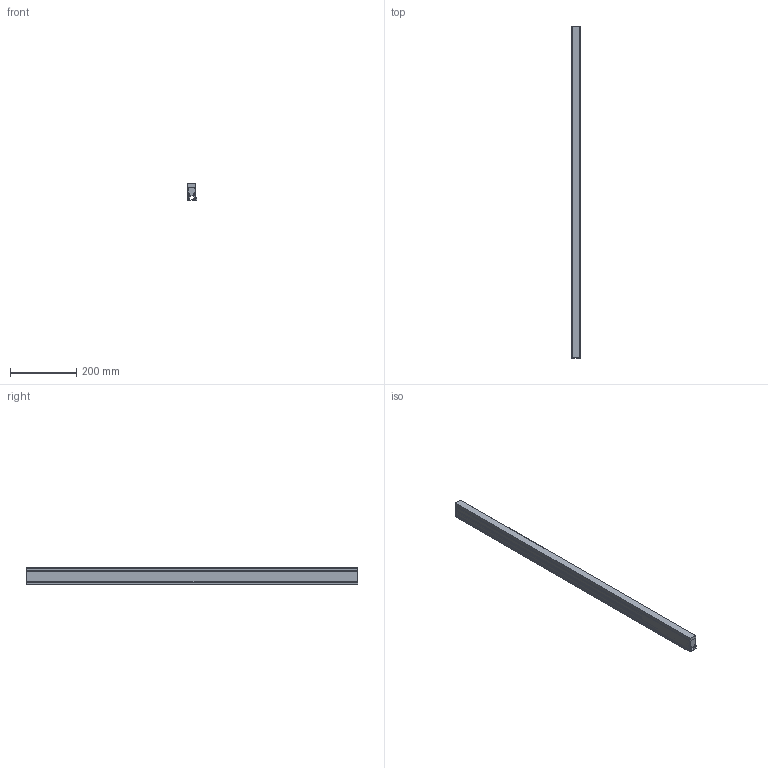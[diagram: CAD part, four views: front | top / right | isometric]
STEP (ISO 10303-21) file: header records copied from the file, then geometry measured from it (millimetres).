
FILE_DESCRIPTION(/* description */ (''),/* implementation_level */ '2;1');
FILE_NAME(/* name */ 'Opal.step',/* time_stamp */ '2026-06-03T23:35:03+03:00',/* author */ (''),/* organization */ (''),/* preprocessor_version */ 'ST-DEVELOPER v20.1',/* originating_system */ 'Autodesk Translation Framework v15.8.0.0',/* authorisation */ '');
FILE_SCHEMA (('AUTOMOTIVE_DESIGN { 1 0 10303 214 3 1 1 }'));
Length unit declared in the file: millimetre
Products named in the file (1): (Unsaved)
Bounding box: 27.36 x 1000 x 48.83 mm (x, y, z)
Volume: 423302.3 mm3; surface area: 422565.2 mm2
Topology: 11 solids, 11 shells, 222 faces, 588 edges, 392 vertices
Faces by surface type: plane 163, cylinder 59
Full cylindrical faces by diameter (mm): 2.899 x4, 3 x4, 4.19 x2
Entity records: 6897 total; most frequent: CARTESIAN_POINT 1203, ORIENTED_EDGE 1176, DIRECTION 1152, EDGE_CURVE 588, LINE 470, VECTOR 470, VERTEX_POINT 392, AXIS2_PLACEMENT_3D 341
